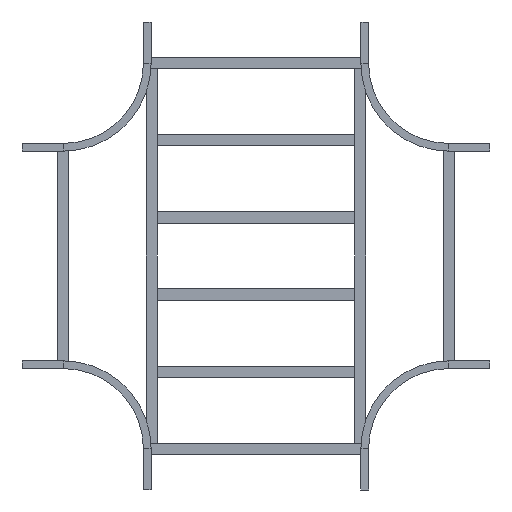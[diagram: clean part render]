
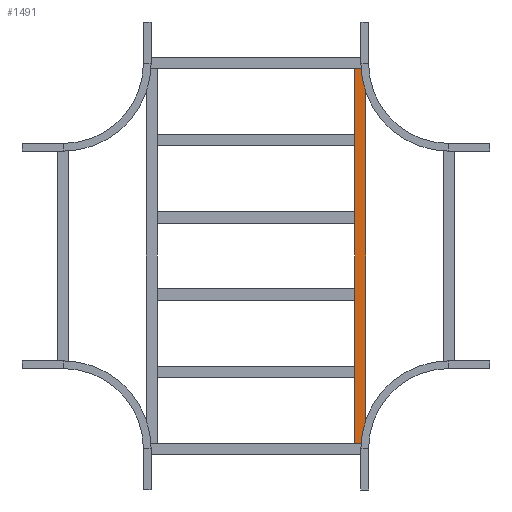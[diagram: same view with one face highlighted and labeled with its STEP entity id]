
A CAD part, front view. The second image highlights one B-rep face of the part: STEP entity #1491.
In plain terms, the highlighted planar face has unit normal (0, -1, 0).
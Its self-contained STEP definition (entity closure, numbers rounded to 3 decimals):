
#1 = EDGE_CURVE ( 'NONE', #948, #2049, #926, .T. ) ;
#20 = DIRECTION ( 'NONE',  ( -1., 0., 0. ) ) ;
#56 = VERTEX_POINT ( 'NONE', #770 ) ;
#192 = ORIENTED_EDGE ( 'NONE', *, *, #1852, .F. ) ;
#368 = LINE ( 'NONE', #1438, #1204 ) ;
#461 = LINE ( 'NONE', #1164, #825 ) ;
#490 = EDGE_LOOP ( 'NONE', ( #2240, #192, #1033, #1304 ) ) ;
#496 = AXIS2_PLACEMENT_3D ( 'NONE', #533, #1409, #2119 ) ;
#533 = CARTESIAN_POINT ( 'NONE',  ( 679.75, 0., 20.25 ) ) ;
#560 = EDGE_CURVE ( 'NONE', #1429, #56, #999, .T. ) ;
#699 = FACE_OUTER_BOUND ( 'NONE', #490, .T. ) ;
#767 = EDGE_CURVE ( 'NONE', #1429, #948, #368, .T. ) ;
#770 = CARTESIAN_POINT ( 'NONE',  ( 679.75, 0., -20.25 ) ) ;
#825 = VECTOR ( 'NONE', #20, 1000. ) ;
#926 = LINE ( 'NONE', #1637, #1082 ) ;
#948 = VERTEX_POINT ( 'NONE', #1883 ) ;
#999 = LINE ( 'NONE', #1218, #1426 ) ;
#1033 = ORIENTED_EDGE ( 'NONE', *, *, #560, .F. ) ;
#1082 = VECTOR ( 'NONE', #1091, 1000. ) ;
#1091 = DIRECTION ( 'NONE',  ( 0., 0., -1. ) ) ;
#1164 = CARTESIAN_POINT ( 'NONE',  ( 679.75, 0., -20.25 ) ) ;
#1204 = VECTOR ( 'NONE', #2146, 1000. ) ;
#1218 = CARTESIAN_POINT ( 'NONE',  ( 679.75, 0., 20.25 ) ) ;
#1244 = CARTESIAN_POINT ( 'NONE',  ( 679.75, 0., 20.25 ) ) ;
#1304 = ORIENTED_EDGE ( 'NONE', *, *, #767, .T. ) ;
#1409 = DIRECTION ( 'NONE',  ( 0., 1., 0. ) ) ;
#1426 = VECTOR ( 'NONE', #2260, 1000. ) ;
#1429 = VERTEX_POINT ( 'NONE', #1244 ) ;
#1438 = CARTESIAN_POINT ( 'NONE',  ( 679.75, 0., 20.25 ) ) ;
#1491 = ADVANCED_FACE ( 'NONE', ( #699 ), #1743, .F. ) ;
#1637 = CARTESIAN_POINT ( 'NONE',  ( -679.75, 0., 20.25 ) ) ;
#1743 = PLANE ( 'NONE',  #496 ) ;
#1852 = EDGE_CURVE ( 'NONE', #56, #2049, #461, .T. ) ;
#1883 = CARTESIAN_POINT ( 'NONE',  ( -679.75, 0., 20.25 ) ) ;
#2049 = VERTEX_POINT ( 'NONE', #2205 ) ;
#2119 = DIRECTION ( 'NONE',  ( 0., 0., 1. ) ) ;
#2146 = DIRECTION ( 'NONE',  ( -1., 0., 0. ) ) ;
#2205 = CARTESIAN_POINT ( 'NONE',  ( -679.75, 0., -20.25 ) ) ;
#2240 = ORIENTED_EDGE ( 'NONE', *, *, #1, .T. ) ;
#2260 = DIRECTION ( 'NONE',  ( 0., 0., -1. ) ) ;
